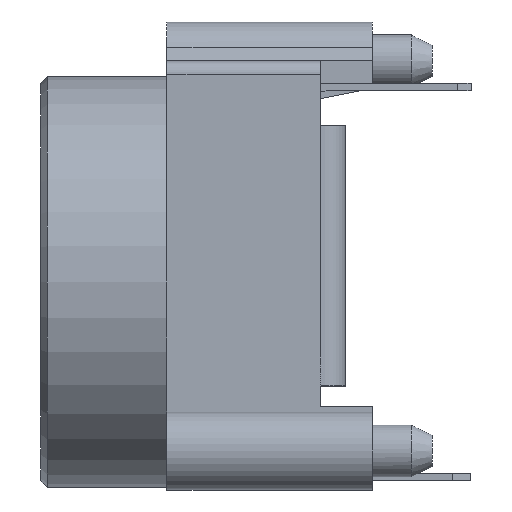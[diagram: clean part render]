
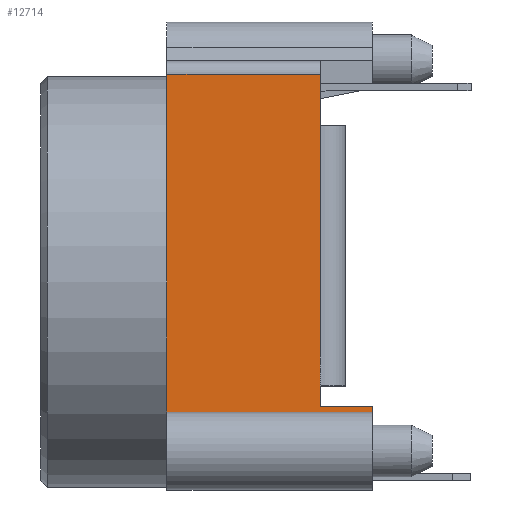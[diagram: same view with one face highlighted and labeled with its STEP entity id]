
A CAD part, left-side view. The second image highlights one B-rep face of the part: STEP entity #12714.
In plain terms, the highlighted planar face has unit normal (-1, 0, 0).
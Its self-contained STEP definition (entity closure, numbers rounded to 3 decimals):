
#1052=PLANE('',#13603);
#2476=LINE('',#20319,#3875);
#2480=LINE('',#20330,#3879);
#2481=LINE('',#20331,#3880);
#2482=LINE('',#20332,#3881);
#2483=LINE('',#20333,#3882);
#2484=LINE('',#20335,#3883);
#2485=LINE('',#20337,#3884);
#2486=LINE('',#20338,#3885);
#3875=VECTOR('',#16510,10.);
#3879=VECTOR('',#16518,10.);
#3880=VECTOR('',#16519,10.);
#3881=VECTOR('',#16520,10.);
#3882=VECTOR('',#16521,10.);
#3883=VECTOR('',#16522,10.);
#3884=VECTOR('',#16523,10.);
#3885=VECTOR('',#16524,10.);
#4553=FACE_OUTER_BOUND('',#5212,.T.);
#5212=EDGE_LOOP('',(#11347,#11348,#11349,#11350,#11351,#11352,#11353,#11354));
#6613=VERTEX_POINT('',#20228);
#6618=VERTEX_POINT('',#20244);
#6643=VERTEX_POINT('',#20317);
#6644=VERTEX_POINT('',#20318);
#6648=VERTEX_POINT('',#20328);
#6649=VERTEX_POINT('',#20329);
#6650=VERTEX_POINT('',#20334);
#6651=VERTEX_POINT('',#20336);
#8275=EDGE_CURVE('',#6643,#6644,#2476,.T.);
#8280=EDGE_CURVE('',#6648,#6649,#2480,.T.);
#8281=EDGE_CURVE('',#6649,#6644,#2481,.T.);
#8282=EDGE_CURVE('',#6643,#6618,#2482,.T.);
#8283=EDGE_CURVE('',#6613,#6618,#2483,.T.);
#8284=EDGE_CURVE('',#6613,#6650,#2484,.T.);
#8285=EDGE_CURVE('',#6651,#6650,#2485,.T.);
#8286=EDGE_CURVE('',#6651,#6648,#2486,.T.);
#11347=ORIENTED_EDGE('',*,*,#8280,.T.);
#11348=ORIENTED_EDGE('',*,*,#8281,.T.);
#11349=ORIENTED_EDGE('',*,*,#8275,.F.);
#11350=ORIENTED_EDGE('',*,*,#8282,.T.);
#11351=ORIENTED_EDGE('',*,*,#8283,.F.);
#11352=ORIENTED_EDGE('',*,*,#8284,.T.);
#11353=ORIENTED_EDGE('',*,*,#8285,.F.);
#11354=ORIENTED_EDGE('',*,*,#8286,.T.);
#12714=ADVANCED_FACE('',(#4553),#1052,.T.);
#13603=AXIS2_PLACEMENT_3D('',#20327,#16516,#16517);
#16510=DIRECTION('',(0.,-1.,0.));
#16516=DIRECTION('center_axis',(-1.,0.,0.));
#16517=DIRECTION('ref_axis',(0.,0.,1.));
#16518=DIRECTION('',(0.,-1.,0.));
#16519=DIRECTION('',(0.,0.,1.));
#16520=DIRECTION('',(0.,0.,1.));
#16521=DIRECTION('',(0.,0.,-1.));
#16522=DIRECTION('',(0.,0.,1.));
#16523=DIRECTION('',(0.,-1.,0.));
#16524=DIRECTION('',(0.,0.,-1.));
#20228=CARTESIAN_POINT('',(-8.046,-2.875,5.));
#20244=CARTESIAN_POINT('',(-8.046,-2.875,-5.));
#20317=CARTESIAN_POINT('',(-8.046,-2.875,-5.8));
#20318=CARTESIAN_POINT('',(-8.046,-4.875,-5.8));
#20319=CARTESIAN_POINT('',(-8.046,-2.875,-5.8));
#20327=CARTESIAN_POINT('Origin',(-8.046,1.825,7.5));
#20328=CARTESIAN_POINT('',(-8.046,3.025,-6.));
#20329=CARTESIAN_POINT('',(-8.046,-4.875,-6.));
#20330=CARTESIAN_POINT('',(-8.046,1.825,-6.));
#20331=CARTESIAN_POINT('',(-8.046,-4.875,7.5));
#20332=CARTESIAN_POINT('',(-8.046,-2.875,7.5));
#20333=CARTESIAN_POINT('',(-8.046,-2.875,3.75));
#20334=CARTESIAN_POINT('',(-8.046,-2.875,7.));
#20335=CARTESIAN_POINT('',(-8.046,-2.875,7.5));
#20336=CARTESIAN_POINT('',(-8.046,3.025,7.));
#20337=CARTESIAN_POINT('',(-8.046,1.825,7.));
#20338=CARTESIAN_POINT('',(-8.046,3.025,7.5));
